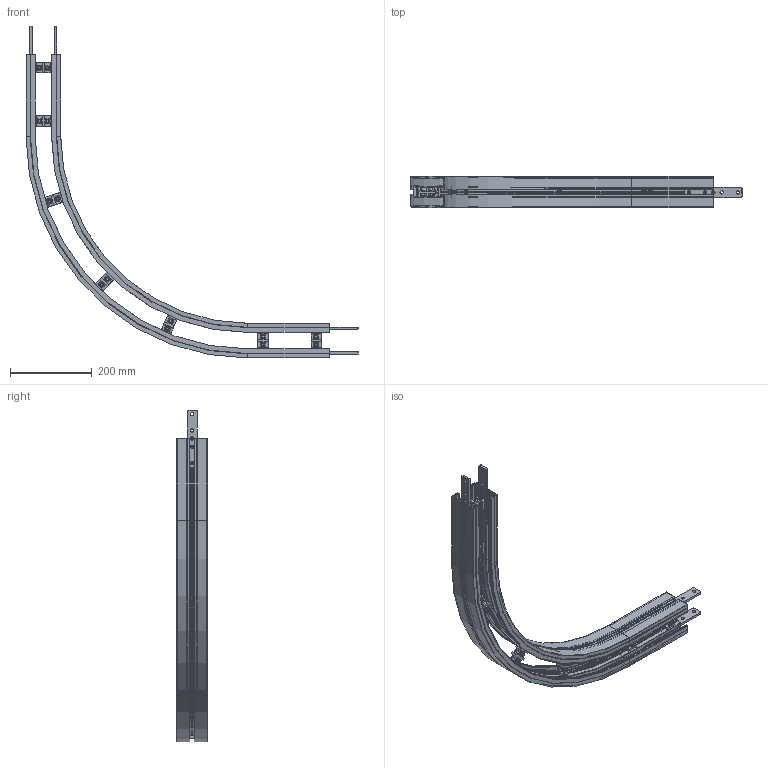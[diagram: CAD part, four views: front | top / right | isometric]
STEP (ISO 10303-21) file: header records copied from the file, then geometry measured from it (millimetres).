
FILE_DESCRIPTION (( 'STEP AP214' ), '1' );
FILE_NAME ('FMHB-90R500.STEP', '2012-04-03T13:13:07', ( 'gs' ), ( 'Microsoft' ), 'SwSTEP 2.0', 'SolidWorks 2011', '' );
FILE_SCHEMA (( 'AUTOMOTIVE_DESIGN' ));
Length unit declared in the file: millimetre
Products named in the file (8): Ecrou bague frein; Clamp Flex_FMHB - CLP; vis CHC  lg23 ; Clamp_FM; FASR-25 U. FMSLDPRT_90R500; FACS-25.éclisse larg 25mm_Default; FMHB R500_90500; FMHB-90R500
Assembly tree (20 placements, depth 3):
  FMHB-90R500
    Clamp Flex_FMHB - CLP  x7
      vis CHC  lg23 
      Ecrou bague frein
      Clamp_FM
    FACS-25.éclisse larg 25mm_Default  x4
    FMHB R500_90500
    FASR-25 U. FMSLDPRT_90R500  x2
Bounding box: 812.5 x 76.99 x 812.5 mm (x, y, z)
Volume: 1272274.8 mm3; surface area: 1279030.4 mm2
Topology: 56 solids, 56 shells, 2479 faces, 6085 edges, 3480 vertices
Faces by surface type: plane 986, cylinder 858, sphere 196, torus 177, bspline 168, cone 94
Entity records: 20213 total; most frequent: CARTESIAN_POINT 3717, DIRECTION 3405, ORIENTED_EDGE 3288, EDGE_CURVE 1644, AXIS2_PLACEMENT_3D 1143, LINE 1119, VECTOR 1119, VERTEX_POINT 1047
